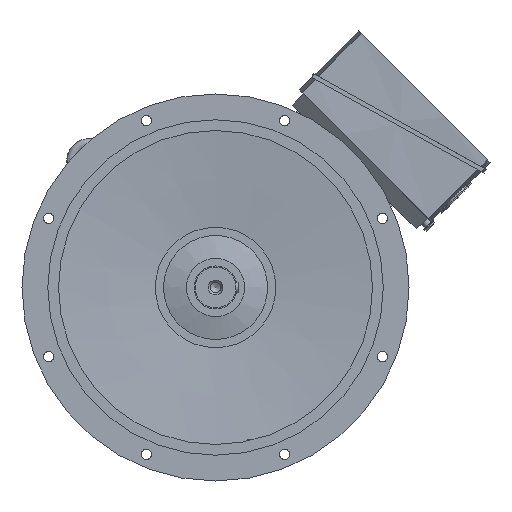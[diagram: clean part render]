
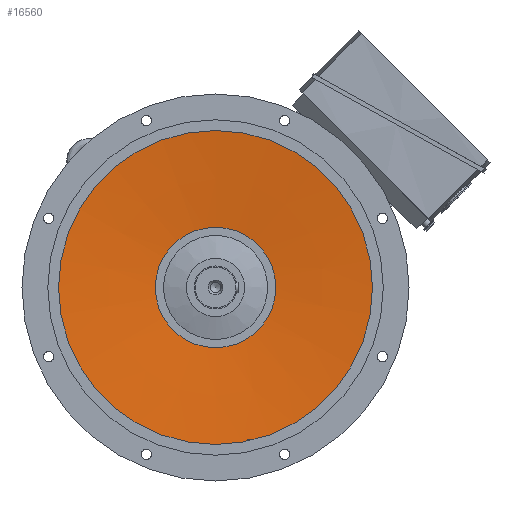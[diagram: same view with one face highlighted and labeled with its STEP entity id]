
A CAD part, left-side view. The second image highlights one B-rep face of the part: STEP entity #16560.
In plain terms, the highlighted conical face has half-angle 84.668 degrees and reference radius 365 mm.
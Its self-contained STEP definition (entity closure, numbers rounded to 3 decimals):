
#763 = DIRECTION ( 'NONE',  ( 0., 0., 1. ) ) ;
#1198 = AXIS2_PLACEMENT_3D ( 'NONE', #26168, #40855, #7806 ) ;
#1885 = CARTESIAN_POINT ( 'NONE',  ( -91., 0., 0. ) ) ;
#2786 = VERTEX_POINT ( 'NONE', #14246 ) ;
#3866 = CARTESIAN_POINT ( 'NONE',  ( -91., 0., 365. ) ) ;
#5326 = EDGE_CURVE ( 'NONE', #2786, #2786, #28987, .T. ) ;
#5663 = DIRECTION ( 'NONE',  ( 0., 0., 1. ) ) ;
#7806 = DIRECTION ( 'NONE',  ( 0., 0., 1. ) ) ;
#9037 = ORIENTED_EDGE ( 'NONE', *, *, #44258, .T. ) ;
#14246 = CARTESIAN_POINT ( 'NONE',  ( -70., 0., 140. ) ) ;
#16560 = ADVANCED_FACE ( 'NONE', ( #29839, #39640 ), #28642, .F. ) ;
#22102 = EDGE_LOOP ( 'NONE', ( #46711 ) ) ;
#22973 = DIRECTION ( 'NONE',  ( -1., 0., 0. ) ) ;
#26168 = CARTESIAN_POINT ( 'NONE',  ( -91., 0., 0. ) ) ;
#27714 = DIRECTION ( 'NONE',  ( -1., 0., 0. ) ) ;
#28642 = CONICAL_SURFACE ( 'NONE', #1198, 365., 1.478 ) ;
#28987 = CIRCLE ( 'NONE', #29616, 140. ) ;
#29616 = AXIS2_PLACEMENT_3D ( 'NONE', #45024, #22973, #763 ) ;
#29839 = FACE_OUTER_BOUND ( 'NONE', #35977, .T. ) ;
#35977 = EDGE_LOOP ( 'NONE', ( #9037 ) ) ;
#39640 = FACE_BOUND ( 'NONE', #22102, .T. ) ;
#40855 = DIRECTION ( 'NONE',  ( -1., 0., 0. ) ) ;
#42524 = AXIS2_PLACEMENT_3D ( 'NONE', #1885, #27714, #5663 ) ;
#43129 = CIRCLE ( 'NONE', #42524, 365. ) ;
#44258 = EDGE_CURVE ( 'NONE', #46650, #46650, #43129, .T. ) ;
#45024 = CARTESIAN_POINT ( 'NONE',  ( -70., 0., 0. ) ) ;
#46650 = VERTEX_POINT ( 'NONE', #3866 ) ;
#46711 = ORIENTED_EDGE ( 'NONE', *, *, #5326, .F. ) ;
